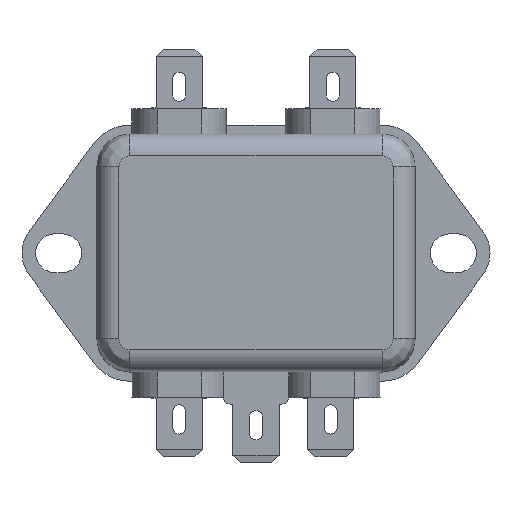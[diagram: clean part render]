
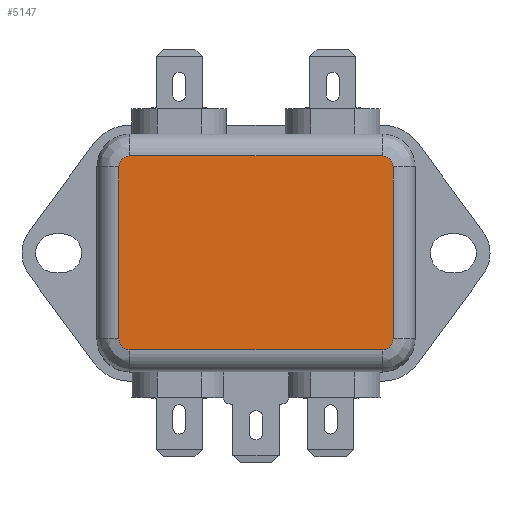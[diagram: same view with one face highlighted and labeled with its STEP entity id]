
A CAD part, top view. The second image highlights one B-rep face of the part: STEP entity #5147.
In plain terms, the highlighted planar face has unit normal (0, 0, 1).
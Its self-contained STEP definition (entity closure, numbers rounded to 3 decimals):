
#4696=CARTESIAN_POINT('',(-18.75,-11.75,29.3));
#4697=VERTEX_POINT('',#4696);
#4705=CARTESIAN_POINT('',(-18.75,11.75,29.3));
#4706=VERTEX_POINT('',#4705);
#4707=CARTESIAN_POINT('',(-18.75,-11.75,29.3));
#4708=DIRECTION('',(0.0,1.0,0.0));
#4709=VECTOR('',#4708,23.5);
#4710=LINE('',#4707,#4709);
#4711=EDGE_CURVE('',#4697,#4706,#4710,.T.);
#4777=CARTESIAN_POINT('',(-17.25,13.25,29.3));
#4778=VERTEX_POINT('',#4777);
#4788=CARTESIAN_POINT('',(-17.25,11.75,29.3));
#4789=DIRECTION('',(0.0,0.0,-1.));
#4790=DIRECTION('',(-0.707,0.707,0.0));
#4791=AXIS2_PLACEMENT_3D('',#4788,#4789,#4790);
#4792=CIRCLE('',#4791,1.5);
#4793=EDGE_CURVE('',#4706,#4778,#4792,.T.);
#4803=CARTESIAN_POINT('',(17.25,13.25,29.3));
#4804=VERTEX_POINT('',#4803);
#4821=CARTESIAN_POINT('',(-17.25,13.25,29.3));
#4822=DIRECTION('',(1.0,0.0,0.0));
#4823=VECTOR('',#4822,34.5);
#4824=LINE('',#4821,#4823);
#4825=EDGE_CURVE('',#4778,#4804,#4824,.T.);
#4883=CARTESIAN_POINT('',(18.75,11.75,29.3));
#4884=VERTEX_POINT('',#4883);
#4902=CARTESIAN_POINT('',(17.25,11.75,29.3));
#4903=DIRECTION('',(0.0,0.0,-1.0));
#4904=DIRECTION('',(0.707,0.707,0.0));
#4905=AXIS2_PLACEMENT_3D('',#4902,#4903,#4904);
#4906=CIRCLE('',#4905,1.5);
#4907=EDGE_CURVE('',#4804,#4884,#4906,.T.);
#4917=CARTESIAN_POINT('',(18.75,-11.75,29.3));
#4918=VERTEX_POINT('',#4917);
#4935=CARTESIAN_POINT('',(18.75,11.75,29.3));
#4936=DIRECTION('',(0.0,-1.0,0.0));
#4937=VECTOR('',#4936,23.5);
#4938=LINE('',#4935,#4937);
#4939=EDGE_CURVE('',#4884,#4918,#4938,.T.);
#4997=CARTESIAN_POINT('',(17.25,-13.25,29.3));
#4998=VERTEX_POINT('',#4997);
#5014=CARTESIAN_POINT('',(17.25,-11.75,29.3));
#5015=DIRECTION('',(0.0,0.0,-1.0));
#5016=DIRECTION('',(0.707,-0.707,0.0));
#5017=AXIS2_PLACEMENT_3D('',#5014,#5015,#5016);
#5018=CIRCLE('',#5017,1.5);
#5019=EDGE_CURVE('',#4918,#4998,#5018,.T.);
#5029=CARTESIAN_POINT('',(-17.25,-13.25,29.3));
#5030=VERTEX_POINT('',#5029);
#5040=CARTESIAN_POINT('',(17.25,-13.25,29.3));
#5041=DIRECTION('',(-1.0,0.0,0.0));
#5042=VECTOR('',#5041,34.5);
#5043=LINE('',#5040,#5042);
#5044=EDGE_CURVE('',#4998,#5030,#5043,.T.);
#5105=CARTESIAN_POINT('',(-17.25,-11.75,29.3));
#5106=DIRECTION('',(0.0,0.0,-1.0));
#5107=DIRECTION('',(-0.707,-0.707,0.0));
#5108=AXIS2_PLACEMENT_3D('',#5105,#5106,#5107);
#5109=CIRCLE('',#5108,1.5);
#5110=EDGE_CURVE('',#5030,#4697,#5109,.T.);
#5132=CARTESIAN_POINT('',(0.,0.,29.3));
#5133=DIRECTION('',(0.0,0.0,1.0));
#5134=DIRECTION('',(1.0,0.0,0.0));
#5135=AXIS2_PLACEMENT_3D('',#5132,#5133,#5134);
#5136=PLANE('',#5135);
#5137=ORIENTED_EDGE('',*,*,#4711,.F.);
#5138=ORIENTED_EDGE('',*,*,#5110,.F.);
#5139=ORIENTED_EDGE('',*,*,#5044,.F.);
#5140=ORIENTED_EDGE('',*,*,#5019,.F.);
#5141=ORIENTED_EDGE('',*,*,#4939,.F.);
#5142=ORIENTED_EDGE('',*,*,#4907,.F.);
#5143=ORIENTED_EDGE('',*,*,#4825,.F.);
#5144=ORIENTED_EDGE('',*,*,#4793,.F.);
#5145=EDGE_LOOP('',(#5137,#5138,#5139,#5140,#5141,#5142,#5143,#5144));
#5146=FACE_OUTER_BOUND('',#5145,.T.);
#5147=ADVANCED_FACE('',(#5146),#5136,.T.);
